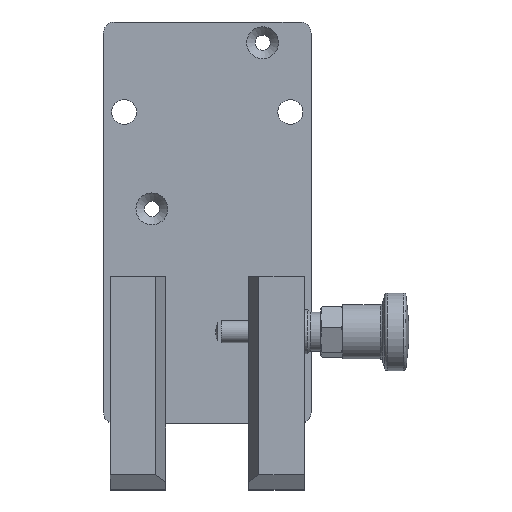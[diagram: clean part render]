
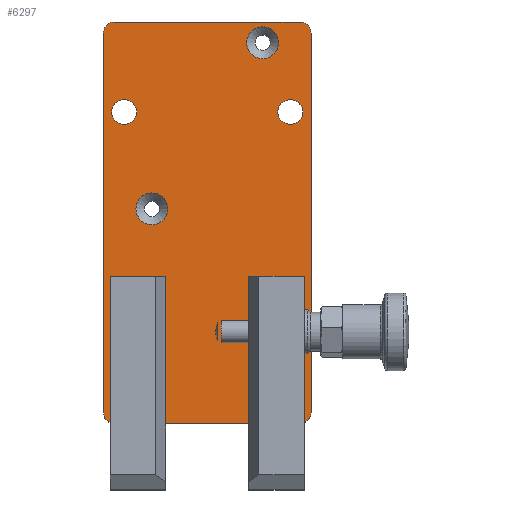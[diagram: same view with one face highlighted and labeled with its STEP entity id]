
A CAD part, top view. The second image highlights one B-rep face of the part: STEP entity #6297.
In plain terms, the highlighted planar face has unit normal (0, 0, 1).
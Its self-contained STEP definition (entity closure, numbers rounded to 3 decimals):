
#408=FACE_BOUND('',#1177,.T.);
#409=FACE_BOUND('',#1178,.T.);
#410=FACE_BOUND('',#1179,.T.);
#411=FACE_BOUND('',#1180,.T.);
#512=PLANE('',#6719);
#811=FACE_OUTER_BOUND('',#1176,.T.);
#1176=EDGE_LOOP('',(#4883,#4884,#4885,#4886,#4887,#4888,#4889,#4890,#4891,
#4892,#4893,#4894,#4895,#4896));
#1177=EDGE_LOOP('',(#4897,#4898));
#1178=EDGE_LOOP('',(#4899,#4900));
#1179=EDGE_LOOP('',(#4901,#4902));
#1180=EDGE_LOOP('',(#4903,#4904));
#1554=LINE('',#9613,#2038);
#1569=LINE('',#9650,#2053);
#1571=LINE('',#9653,#2055);
#1581=LINE('',#9714,#2065);
#1588=LINE('',#9743,#2072);
#1591=LINE('',#9751,#2075);
#1599=LINE('',#9793,#2083);
#1600=LINE('',#9796,#2084);
#1601=LINE('',#9798,#2085);
#1602=LINE('',#9799,#2086);
#2038=VECTOR('',#7372,10.);
#2053=VECTOR('',#7409,10.);
#2055=VECTOR('',#7413,10.);
#2065=VECTOR('',#7477,10.);
#2072=VECTOR('',#7506,10.);
#2075=VECTOR('',#7515,10.);
#2083=VECTOR('',#7565,10.);
#2084=VECTOR('',#7568,10.);
#2085=VECTOR('',#7569,10.);
#2086=VECTOR('',#7570,10.);
#2414=CIRCLE('',#6681,4.);
#2423=CIRCLE('',#6693,4.);
#2424=CIRCLE('',#6696,4.);
#2425=CIRCLE('',#6699,4.);
#2426=CIRCLE('',#6701,5.75);
#2427=CIRCLE('',#6702,5.75);
#2430=CIRCLE('',#6707,5.75);
#2431=CIRCLE('',#6708,5.75);
#2434=CIRCLE('',#6713,4.5);
#2435=CIRCLE('',#6714,4.5);
#2436=CIRCLE('',#6716,4.5);
#2437=CIRCLE('',#6717,4.5);
#2734=VERTEX_POINT('',#9610);
#2735=VERTEX_POINT('',#9612);
#2745=VERTEX_POINT('',#9647);
#2746=VERTEX_POINT('',#9649);
#2765=VERTEX_POINT('',#9700);
#2766=VERTEX_POINT('',#9702);
#2770=VERTEX_POINT('',#9713);
#2780=VERTEX_POINT('',#9737);
#2781=VERTEX_POINT('',#9741);
#2782=VERTEX_POINT('',#9745);
#2783=VERTEX_POINT('',#9746);
#2784=VERTEX_POINT('',#9753);
#2785=VERTEX_POINT('',#9757);
#2786=VERTEX_POINT('',#9758);
#2789=VERTEX_POINT('',#9769);
#2790=VERTEX_POINT('',#9770);
#2793=VERTEX_POINT('',#9781);
#2794=VERTEX_POINT('',#9782);
#2795=VERTEX_POINT('',#9787);
#2796=VERTEX_POINT('',#9788);
#2797=VERTEX_POINT('',#9795);
#2798=VERTEX_POINT('',#9797);
#3461=EDGE_CURVE('',#2735,#2734,#1554,.T.);
#3478=EDGE_CURVE('',#2746,#2745,#1569,.T.);
#3480=EDGE_CURVE('',#2745,#2735,#1571,.T.);
#3504=EDGE_CURVE('',#2765,#2766,#2414,.T.);
#3510=EDGE_CURVE('',#2770,#2746,#1581,.T.);
#3522=EDGE_CURVE('',#2780,#2734,#2423,.T.);
#3525=EDGE_CURVE('',#2780,#2781,#1588,.T.);
#3526=EDGE_CURVE('',#2782,#2783,#2424,.T.);
#3529=EDGE_CURVE('',#2782,#2766,#1591,.T.);
#3530=EDGE_CURVE('',#2784,#2781,#2425,.T.);
#3532=EDGE_CURVE('',#2785,#2786,#2426,.T.);
#3533=EDGE_CURVE('',#2786,#2785,#2427,.T.);
#3538=EDGE_CURVE('',#2789,#2790,#2430,.T.);
#3539=EDGE_CURVE('',#2790,#2789,#2431,.T.);
#3544=EDGE_CURVE('',#2793,#2794,#2434,.T.);
#3545=EDGE_CURVE('',#2794,#2793,#2435,.T.);
#3547=EDGE_CURVE('',#2795,#2796,#2436,.T.);
#3548=EDGE_CURVE('',#2796,#2795,#2437,.T.);
#3550=EDGE_CURVE('',#2784,#2783,#1599,.T.);
#3551=EDGE_CURVE('',#2797,#2770,#1600,.T.);
#3552=EDGE_CURVE('',#2765,#2798,#1601,.T.);
#3553=EDGE_CURVE('',#2798,#2797,#1602,.T.);
#4883=ORIENTED_EDGE('',*,*,#3551,.T.);
#4884=ORIENTED_EDGE('',*,*,#3510,.T.);
#4885=ORIENTED_EDGE('',*,*,#3478,.T.);
#4886=ORIENTED_EDGE('',*,*,#3480,.T.);
#4887=ORIENTED_EDGE('',*,*,#3461,.T.);
#4888=ORIENTED_EDGE('',*,*,#3522,.F.);
#4889=ORIENTED_EDGE('',*,*,#3525,.T.);
#4890=ORIENTED_EDGE('',*,*,#3530,.F.);
#4891=ORIENTED_EDGE('',*,*,#3550,.T.);
#4892=ORIENTED_EDGE('',*,*,#3526,.F.);
#4893=ORIENTED_EDGE('',*,*,#3529,.T.);
#4894=ORIENTED_EDGE('',*,*,#3504,.F.);
#4895=ORIENTED_EDGE('',*,*,#3552,.T.);
#4896=ORIENTED_EDGE('',*,*,#3553,.T.);
#4897=ORIENTED_EDGE('',*,*,#3532,.T.);
#4898=ORIENTED_EDGE('',*,*,#3533,.T.);
#4899=ORIENTED_EDGE('',*,*,#3538,.T.);
#4900=ORIENTED_EDGE('',*,*,#3539,.T.);
#4901=ORIENTED_EDGE('',*,*,#3544,.T.);
#4902=ORIENTED_EDGE('',*,*,#3545,.T.);
#4903=ORIENTED_EDGE('',*,*,#3547,.T.);
#4904=ORIENTED_EDGE('',*,*,#3548,.T.);
#6297=ADVANCED_FACE('',(#811,#408,#409,#410,#411),#512,.T.);
#6681=AXIS2_PLACEMENT_3D('',#9703,#7467,#7468);
#6693=AXIS2_PLACEMENT_3D('',#9738,#7500,#7501);
#6696=AXIS2_PLACEMENT_3D('',#9747,#7509,#7510);
#6699=AXIS2_PLACEMENT_3D('',#9754,#7518,#7519);
#6701=AXIS2_PLACEMENT_3D('',#9759,#7523,#7524);
#6702=AXIS2_PLACEMENT_3D('',#9760,#7525,#7526);
#6707=AXIS2_PLACEMENT_3D('',#9771,#7537,#7538);
#6708=AXIS2_PLACEMENT_3D('',#9772,#7539,#7540);
#6713=AXIS2_PLACEMENT_3D('',#9783,#7551,#7552);
#6714=AXIS2_PLACEMENT_3D('',#9784,#7553,#7554);
#6716=AXIS2_PLACEMENT_3D('',#9789,#7558,#7559);
#6717=AXIS2_PLACEMENT_3D('',#9790,#7560,#7561);
#6719=AXIS2_PLACEMENT_3D('',#9794,#7566,#7567);
#7372=DIRECTION('',(0.,-1.,0.));
#7409=DIRECTION('',(0.,1.,0.));
#7413=DIRECTION('',(1.,0.,0.));
#7467=DIRECTION('center_axis',(0.,0.,-1.));
#7468=DIRECTION('ref_axis',(-0.707,-0.707,0.));
#7477=DIRECTION('',(1.,0.,0.));
#7500=DIRECTION('center_axis',(0.,0.,-1.));
#7501=DIRECTION('ref_axis',(0.707,-0.707,0.));
#7506=DIRECTION('',(0.,1.,0.));
#7509=DIRECTION('center_axis',(0.,0.,-1.));
#7510=DIRECTION('ref_axis',(-0.707,0.707,0.));
#7515=DIRECTION('',(0.,-1.,0.));
#7518=DIRECTION('center_axis',(0.,0.,-1.));
#7519=DIRECTION('ref_axis',(0.707,0.707,0.));
#7523=DIRECTION('center_axis',(0.,0.,-1.));
#7524=DIRECTION('ref_axis',(1.,0.,0.));
#7525=DIRECTION('center_axis',(0.,0.,-1.));
#7526=DIRECTION('ref_axis',(1.,0.,0.));
#7537=DIRECTION('center_axis',(0.,0.,-1.));
#7538=DIRECTION('ref_axis',(1.,0.,0.));
#7539=DIRECTION('center_axis',(0.,0.,-1.));
#7540=DIRECTION('ref_axis',(1.,0.,0.));
#7551=DIRECTION('center_axis',(0.,0.,-1.));
#7552=DIRECTION('ref_axis',(1.,0.,0.));
#7553=DIRECTION('center_axis',(0.,0.,-1.));
#7554=DIRECTION('ref_axis',(1.,0.,0.));
#7558=DIRECTION('center_axis',(0.,0.,-1.));
#7559=DIRECTION('ref_axis',(1.,0.,0.));
#7560=DIRECTION('center_axis',(0.,0.,-1.));
#7561=DIRECTION('ref_axis',(1.,0.,0.));
#7565=DIRECTION('',(-1.,0.,0.));
#7566=DIRECTION('center_axis',(0.,0.,1.));
#7567=DIRECTION('ref_axis',(1.,0.,0.));
#7568=DIRECTION('',(0.,-1.,0.));
#7569=DIRECTION('',(0.,1.,0.));
#7570=DIRECTION('',(1.,0.,0.));
#9610=CARTESIAN_POINT('',(35.,-72.208,6.));
#9612=CARTESIAN_POINT('',(35.,-19.5,6.));
#9613=CARTESIAN_POINT('',(35.,-48.25,6.));
#9647=CARTESIAN_POINT('',(15.,-19.5,6.));
#9649=CARTESIAN_POINT('',(15.,-72.5,6.));
#9650=CARTESIAN_POINT('',(15.,-9.75,6.));
#9653=CARTESIAN_POINT('',(17.5,-19.5,6.));
#9700=CARTESIAN_POINT('',(-35.,-72.208,6.));
#9702=CARTESIAN_POINT('',(-37.5,-68.5,6.));
#9703=CARTESIAN_POINT('Origin',(-33.5,-68.5,6.));
#9713=CARTESIAN_POINT('',(-15.,-72.5,6.));
#9714=CARTESIAN_POINT('',(-37.5,-72.5,6.));
#9737=CARTESIAN_POINT('',(37.5,-68.5,6.));
#9738=CARTESIAN_POINT('Origin',(33.5,-68.5,6.));
#9741=CARTESIAN_POINT('',(37.5,68.5,6.));
#9743=CARTESIAN_POINT('',(37.5,-72.5,6.));
#9745=CARTESIAN_POINT('',(-37.5,68.5,6.));
#9746=CARTESIAN_POINT('',(-33.5,72.5,6.));
#9747=CARTESIAN_POINT('Origin',(-33.5,68.5,6.));
#9751=CARTESIAN_POINT('',(-37.5,72.5,6.));
#9753=CARTESIAN_POINT('',(33.5,72.5,6.));
#9754=CARTESIAN_POINT('Origin',(33.5,68.5,6.));
#9757=CARTESIAN_POINT('',(25.75,65.,6.));
#9758=CARTESIAN_POINT('',(14.25,65.,6.));
#9759=CARTESIAN_POINT('Origin',(20.,65.,6.));
#9760=CARTESIAN_POINT('Origin',(20.,65.,6.));
#9769=CARTESIAN_POINT('',(-14.25,5.,6.));
#9770=CARTESIAN_POINT('',(-25.75,5.,6.));
#9771=CARTESIAN_POINT('Origin',(-20.,5.,6.));
#9772=CARTESIAN_POINT('Origin',(-20.,5.,6.));
#9781=CARTESIAN_POINT('',(-25.5,40.,6.));
#9782=CARTESIAN_POINT('',(-34.5,40.,6.));
#9783=CARTESIAN_POINT('Origin',(-30.,40.,6.));
#9784=CARTESIAN_POINT('Origin',(-30.,40.,6.));
#9787=CARTESIAN_POINT('',(34.5,40.,6.));
#9788=CARTESIAN_POINT('',(25.5,40.,6.));
#9789=CARTESIAN_POINT('Origin',(30.,40.,6.));
#9790=CARTESIAN_POINT('Origin',(30.,40.,6.));
#9793=CARTESIAN_POINT('',(37.5,72.5,6.));
#9794=CARTESIAN_POINT('Origin',(0.,0.,6.));
#9795=CARTESIAN_POINT('',(-15.,-19.5,6.));
#9796=CARTESIAN_POINT('',(-15.,-48.25,6.));
#9797=CARTESIAN_POINT('',(-35.,-19.5,6.));
#9798=CARTESIAN_POINT('',(-35.,-9.75,6.));
#9799=CARTESIAN_POINT('',(-7.5,-19.5,6.));
